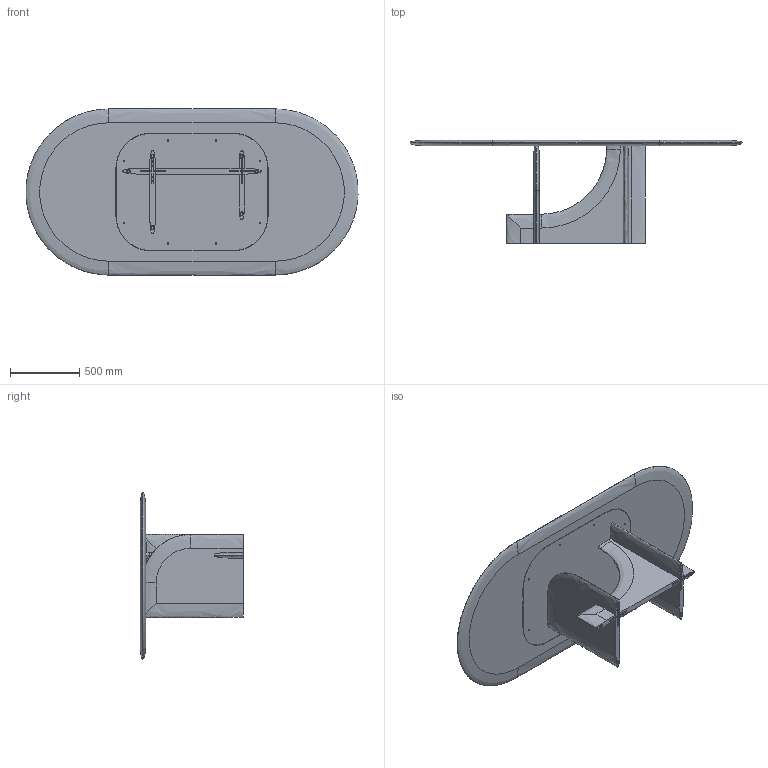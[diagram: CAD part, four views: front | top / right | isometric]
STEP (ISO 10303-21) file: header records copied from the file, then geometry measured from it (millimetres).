
FILE_DESCRIPTION (( 'STEP AP214' ), '1' );
FILE_NAME ('SELCE T 2400 x 1200.STEP', '2024-05-14T15:56:14', ( '' ), ( '' ), 'SwSTEP 2.0', 'SolidWorks 2023', '' );
FILE_SCHEMA (( 'AUTOMOTIVE_DESIGN' ));
Length unit declared in the file: millimetre
Products named in the file (6): GAMBE e PIASTRA_PIASTRA A; GAMBE e PIASTRA_GAMBA A; SELCE T 2400 x 1200; CROCE FERRO; TOP_2400 x 1200; SCIVOLO_IPEA_20PTPD007N
Assembly tree (12 placements, depth 2):
  SELCE T 2400 x 1200
    TOP_2400 x 1200
    GAMBE e PIASTRA_GAMBA A
    GAMBE e PIASTRA_PIASTRA A
    CROCE FERRO  x3
    SCIVOLO_IPEA_20PTPD007N  x6
Bounding box: 2398.69 x 749 x 1200 mm (x, y, z)
Volume: 137002825.3 mm3; surface area: 9495969.4 mm2
Topology: 16 solids, 16 shells, 620 faces, 1584 edges, 966 vertices
Faces by surface type: cylinder 244, plane 186, cone 132, bspline 58
Entity records: 16693 total; most frequent: CARTESIAN_POINT 5327, DIRECTION 2323, ORIENTED_EDGE 2260, EDGE_CURVE 1130, AXIS2_PLACEMENT_3D 865, VERTEX_POINT 726, EDGE_LOOP 600, LINE 593
